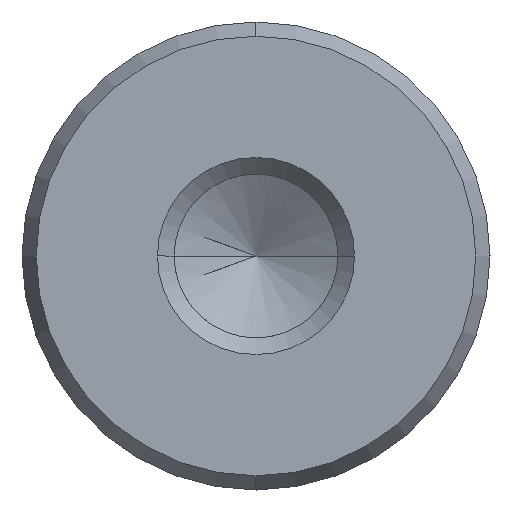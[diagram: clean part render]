
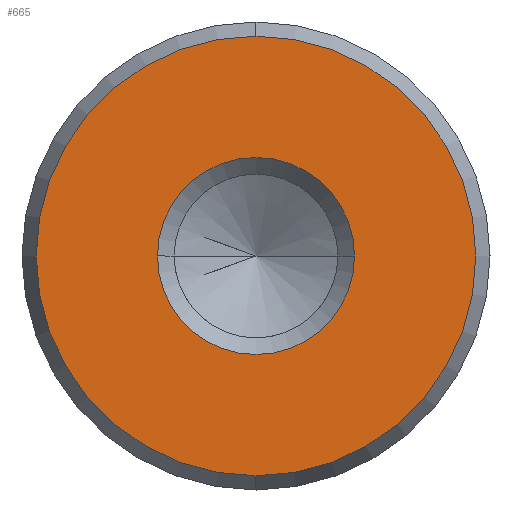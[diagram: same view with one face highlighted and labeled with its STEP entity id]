
A CAD part, left-side view. The second image highlights one B-rep face of the part: STEP entity #665.
In plain terms, the highlighted planar face has unit normal (-1, 0, 0).
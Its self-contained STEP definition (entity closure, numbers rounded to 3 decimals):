
#579=CARTESIAN_POINT('Vertex',(0.,0.,-8.923)) ;
#582=CARTESIAN_POINT('Axis2P3D Location',(0.,0.,0.)) ;
#586=CARTESIAN_POINT('Vertex',(0.,8.923,0.)) ;
#589=CARTESIAN_POINT('Axis2P3D Location',(0.,0.,0.)) ;
#593=CARTESIAN_POINT('Vertex',(0.,0.,8.923)) ;
#615=CARTESIAN_POINT('Axis2P3D Location',(0.,0.,0.)) ;
#619=CARTESIAN_POINT('Vertex',(0.,-8.923,0.)) ;
#622=CARTESIAN_POINT('Axis2P3D Location',(0.,0.,0.)) ;
#636=CARTESIAN_POINT('Axis2P3D Location',(0.,0.,0.)) ;
#647=CARTESIAN_POINT('Axis2P3D Location',(0.,0.,0.)) ;
#651=CARTESIAN_POINT('Vertex',(0.,4.,0.)) ;
#653=CARTESIAN_POINT('Vertex',(0.,-4.,0.)) ;
#656=CARTESIAN_POINT('Axis2P3D Location',(0.,0.,0.)) ;
#583=DIRECTION('Axis2P3D Direction',(1.,0.,-0.)) ;
#590=DIRECTION('Axis2P3D Direction',(1.,0.,-0.)) ;
#616=DIRECTION('Axis2P3D Direction',(1.,0.,-0.)) ;
#623=DIRECTION('Axis2P3D Direction',(1.,0.,-0.)) ;
#637=DIRECTION('Axis2P3D Direction',(1.,0.,-0.)) ;
#638=DIRECTION('Axis2P3D XDirection',(-0.,0.,-1.)) ;
#648=DIRECTION('Axis2P3D Direction',(1.,0.,-0.)) ;
#657=DIRECTION('Axis2P3D Direction',(1.,0.,-0.)) ;
#584=AXIS2_PLACEMENT_3D('Circle Axis2P3D',#582,#583,$) ;
#591=AXIS2_PLACEMENT_3D('Circle Axis2P3D',#589,#590,$) ;
#617=AXIS2_PLACEMENT_3D('Circle Axis2P3D',#615,#616,$) ;
#624=AXIS2_PLACEMENT_3D('Circle Axis2P3D',#622,#623,$) ;
#639=AXIS2_PLACEMENT_3D('Plane Axis2P3D',#636,#637,#638) ;
#649=AXIS2_PLACEMENT_3D('Circle Axis2P3D',#647,#648,$) ;
#658=AXIS2_PLACEMENT_3D('Circle Axis2P3D',#656,#657,$) ;
#642=ORIENTED_EDGE('',*,*,#588,.F.) ;
#643=ORIENTED_EDGE('',*,*,#626,.F.) ;
#644=ORIENTED_EDGE('',*,*,#621,.F.) ;
#645=ORIENTED_EDGE('',*,*,#595,.F.) ;
#662=ORIENTED_EDGE('',*,*,#655,.T.) ;
#663=ORIENTED_EDGE('',*,*,#660,.T.) ;
#664=FACE_BOUND('',#661,.T.) ;
#665=ADVANCED_FACE('720-19x125',(#646,#664),#640,.F.) ;
#585=CIRCLE('generated circle',#584,8.923) ;
#592=CIRCLE('generated circle',#591,8.923) ;
#618=CIRCLE('generated circle',#617,8.923) ;
#625=CIRCLE('generated circle',#624,8.923) ;
#650=CIRCLE('generated circle',#649,4.) ;
#659=CIRCLE('generated circle',#658,4.) ;
#588=EDGE_CURVE('',#580,#587,#585,.T.) ;
#595=EDGE_CURVE('',#587,#594,#592,.T.) ;
#621=EDGE_CURVE('',#594,#620,#618,.T.) ;
#626=EDGE_CURVE('',#620,#580,#625,.T.) ;
#655=EDGE_CURVE('',#652,#654,#650,.T.) ;
#660=EDGE_CURVE('',#654,#652,#659,.T.) ;
#641=EDGE_LOOP('',(#642,#643,#644,#645)) ;
#661=EDGE_LOOP('',(#662,#663)) ;
#646=FACE_OUTER_BOUND('',#641,.T.) ;
#640=PLANE('Plane',#639) ;
#580=VERTEX_POINT('',#579) ;
#587=VERTEX_POINT('',#586) ;
#594=VERTEX_POINT('',#593) ;
#620=VERTEX_POINT('',#619) ;
#652=VERTEX_POINT('',#651) ;
#654=VERTEX_POINT('',#653) ;
